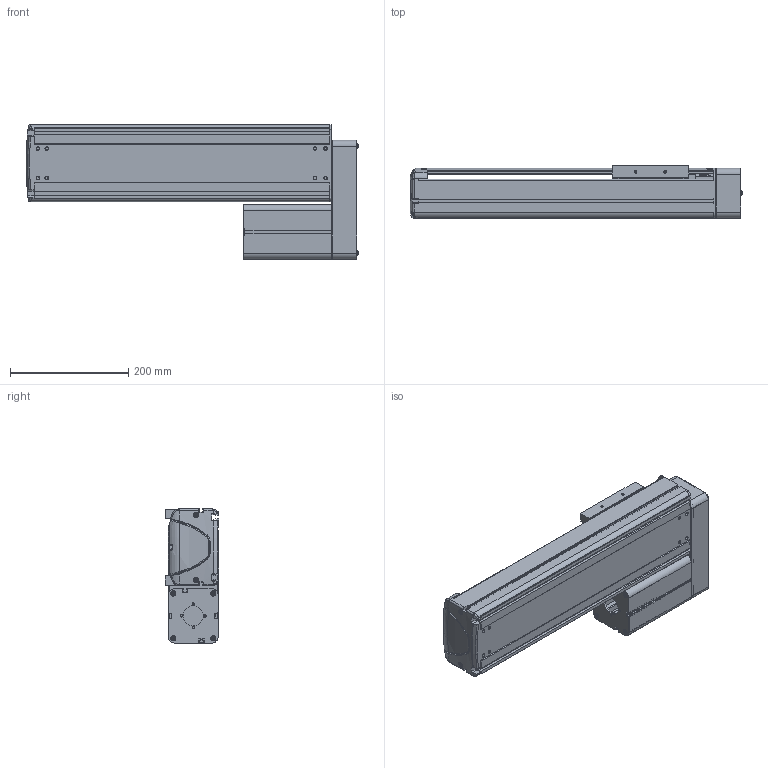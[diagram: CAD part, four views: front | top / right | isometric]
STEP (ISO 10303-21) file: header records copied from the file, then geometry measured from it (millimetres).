
FILE_DESCRIPTION((''),'2;1');
FILE_NAME('BE30E-UL-M_N-30_IGS_PRT','2017-06-17T',(' '),(''),'PRO/ENGINEER BY PARAMETRIC TECHNOLOGY CORPORATION, 2015030','PRO/ENGINEER BY PARAMETRIC TECHNOLOGY CORPORATION, 2015030','');
FILE_SCHEMA(('CONFIG_CONTROL_DESIGN'));
Products named in the file (1): BE30E-UL-M_N-30_IGS_PRT
Bounding box: 561.9 x 89.8 x 227 mm (x, y, z)
Volume: 2180245 mm3; surface area: 956499.3 mm2
Topology: 2 solids, 104 shells, 1952 faces, 5223 edges, 3382 vertices
Faces by surface type: plane 985, cylinder 770, cone 103, torus 39, bspline 31, sphere 24
Entity records: 62828 total; most frequent: CARTESIAN_POINT 13269, DIRECTION 10473, ORIENTED_EDGE 9986, EDGE_CURVE 5185, AXIS2_PLACEMENT_3D 3657, VERTEX_POINT 3382, VECTOR 3159, LINE 3159
